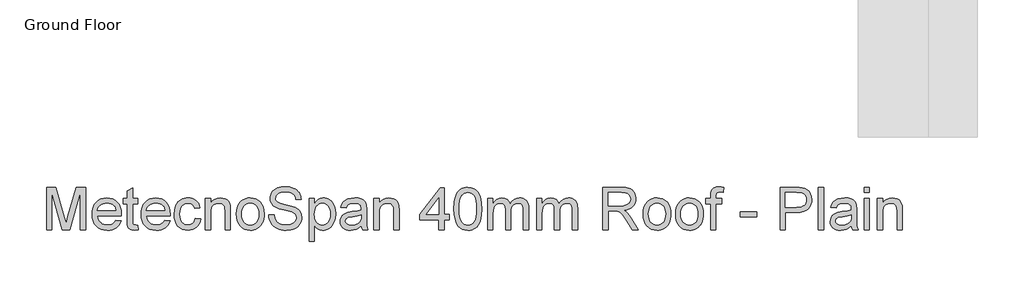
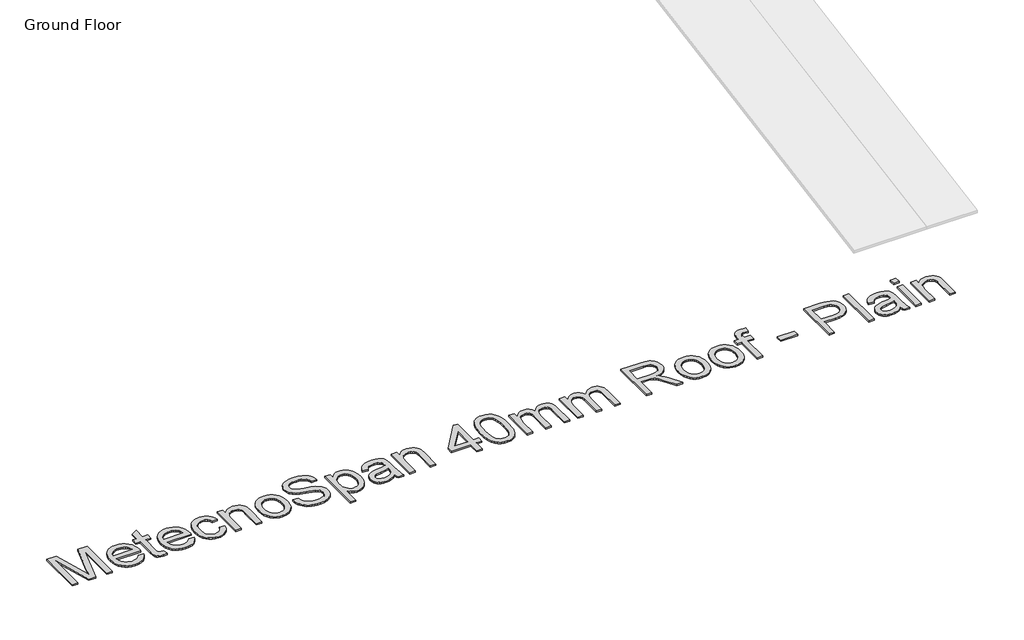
# One storey, part 3 of 14: 1 proxy.
"""IFC4 building model written with IfcOpenShell, lengths in millimetres."""

from ifc_helpers import new_model, si_unit, origin, origin_with_axes, place, context, project, spatial, polyline, outline, extrude, element, save

model = new_model("IFC4")

# Units and contexts
model_context = context("Model", 3, world=origin())
ifc_project = project(units=[si_unit("LENGTHUNIT", "METRE", prefix="MILLI")], contexts=[model_context])

# Site, building, storey
site = spatial("IfcSite", under=ifc_project)
building = spatial("IfcBuilding", under=site)
storey = spatial("IfcBuildingStorey", under=building, Name="Ground Floor", Elevation=0.0)

# Proxy
placement = place(None, origin())
element("IfcBuildingElementProxy", 1, Name="600mm Arial", ObjectType="600mm Arial", at=placement, inside=storey, context=model_context, shape_type="SweptSolid", body=[
    extrude(outline(polyline([(-20586.6111679, -5259.7789852), (-20586.6111679, -4657.0411243), (-20456.9695528, -4657.0411243), (-20333.655508, -5081.8712524), (-20308.7866852, -5170.6043896), (-20281.8577231, -5074.5136125), (-20160.6038175, -4657.0411243), (-20030.9622024, -4657.0411243), (-20030.9622024, -5259.7789852), (-20106.304435, -5259.7789852), (-20106.304435, -4732.3833569), (-20257.7246642, -5259.7789852), (-20359.8487061, -5259.7789852), (-20511.2689353, -4732.3833569), (-20511.2689353, -5259.7789852), (-20586.6111679, -5259.7789852)])), origin_with_axes(), (0.0, 0.0, 1.0), 20.0),
    extrude(outline(polyline([(-19598.6272817, -5127.9300782), (-19524.756577, -5137.3478572), (-19536.082744, -5166.9347667), (-19551.3728394, -5193.0084031), (-19570.6268633, -5215.5687665), (-19593.8448157, -5234.6158568), (-19620.7875733, -5249.7450038), (-19651.2160129, -5260.5515374), (-19685.1301343, -5267.0354576), (-19722.5299376, -5269.1967643), (-19769.2785422, -5265.4673606), (-19810.9319811, -5254.2791494), (-19847.4902544, -5235.6321308), (-19878.953362, -5209.5263047), (-19904.2544462, -5176.6882381), (-19922.3266492, -5137.8444979), (-19933.169971, -5092.9950842), (-19936.7844116, -5042.1399969), (-19933.1331828, -4989.5604627), (-19922.1794964, -4943.2165284), (-19903.9233524, -4903.1081939), (-19878.3647508, -4869.2354592), (-19846.9844166, -4842.3248912), (-19811.2630749, -4823.103057), (-19771.2007256, -4811.5699564), (-19726.7973688, -4807.7255896), (-19683.8241532, -4811.5607594), (-19644.962019, -4823.0662688), (-19610.210966, -4842.2421178), (-19579.5709943, -4869.0883064), (-19554.5596172, -4902.8874647), (-19536.6943478, -4942.9222228), (-19525.9751861, -4989.1925807), (-19522.4021323, -5041.6985385), (-19522.8435907, -5062.0056246), (-19861.442179, -5062.0056246), (-19857.0781789, -5092.0707807), (-19848.4007623, -5118.4019345), (-19835.4099293, -5140.999086), (-19818.10568, -5159.8622353), (-19797.4445074, -5174.733865), (-19774.3829049, -5185.3564576), (-19748.9208723, -5191.7300132), (-19721.0584097, -5193.8545317), (-19680.9592722, -5189.9181943), (-19647.187705, -5178.1091823), (-19619.7437082, -5157.6917316), (-19598.6272817, -5127.9300782)]), holes=[polyline([(-19861.442179, -4986.663392), (-19597.7443649, -4986.663392), (-19607.9346961, -4946.8585601), (-19616.6994847, -4931.2051812), (-19627.9106885, -4918.3844937), (-19648.4568979, -4902.9334499), (-19671.8357987, -4891.8969901), (-19698.0473909, -4885.2751141), (-19727.0916744, -4883.0678222), (-19753.5837766, -4884.8290572), (-19777.8777838, -4890.1127624), (-19799.9736962, -4898.9189376), (-19819.8715136, -4911.247583), (-19836.5687576, -4926.5284814), (-19849.0629499, -4944.1914157), (-19857.3540903, -4964.2363859), (-19861.442179, -4986.663392)])]), origin_with_axes(), (0.0, 0.0, 1.0), 20.0),
    extrude(outline(polyline([(-19286.9576554, -5196.9447405), (-19277.5398763, -5261.9862772), (-19333.8993979, -5269.1967643), (-19370.0621981, -5266.0697674), (-19397.0279483, -5256.6887765), (-19416.0842357, -5242.2310141), (-19428.5186471, -5223.8737025), (-19435.3612522, -5192.3462155), (-19437.6421206, -5138.3779268), (-19437.6421206, -4892.4856012), (-19494.148795, -4892.4856012), (-19494.148795, -4817.1433686), (-19437.6421206, -4817.1433686), (-19437.6421206, -4709.5746732), (-19362.299888, -4665.281681), (-19362.299888, -4817.1433686), (-19286.9576554, -4817.1433686), (-19286.9576554, -4892.4856012), (-19362.299888, -4892.4856012), (-19362.299888, -5136.1706349), (-19358.3267624, -5175.0189735), (-19345.4508926, -5188.7777602), (-19334.5799796, -5192.5853388), (-19319.7727293, -5193.8545317), (-19286.9576554, -5196.9447405)])), origin_with_axes(), (0.0, 0.0, 1.0), 20.0),
    extrude(outline(polyline([(-18901.71163, -5127.9300782), (-18827.8409254, -5137.3478572), (-18839.1670923, -5166.9347667), (-18854.4571877, -5193.0084031), (-18873.7112116, -5215.5687665), (-18896.9291641, -5234.6158568), (-18923.8719217, -5249.7450038), (-18954.3003612, -5260.5515374), (-18988.2144826, -5267.0354576), (-19025.614286, -5269.1967643), (-19072.3628905, -5265.4673606), (-19114.0163294, -5254.2791494), (-19150.5746027, -5235.6321308), (-19182.0377103, -5209.5263047), (-19207.3387945, -5176.6882381), (-19225.4109976, -5137.8444979), (-19236.2543194, -5092.9950842), (-19239.86876, -5042.1399969), (-19236.2175312, -4989.5604627), (-19225.2638448, -4943.2165284), (-19207.0077007, -4903.1081939), (-19181.4490991, -4869.2354592), (-19150.0687649, -4842.3248912), (-19114.3474232, -4823.103057), (-19074.2850739, -4811.5699564), (-19029.8817171, -4807.7255896), (-18986.9085016, -4811.5607594), (-18948.0463673, -4823.0662688), (-18913.2953143, -4842.2421178), (-18882.6553427, -4869.0883064), (-18857.6439655, -4902.8874647), (-18839.7786961, -4942.9222228), (-18829.0595345, -4989.1925807), (-18825.4864806, -5041.6985385), (-18825.927939, -5062.0056246), (-19164.5265274, -5062.0056246), (-19160.1625272, -5092.0707807), (-19151.4851106, -5118.4019345), (-19138.4942777, -5140.999086), (-19121.1900283, -5159.8622353), (-19100.5288558, -5174.733865), (-19077.4672532, -5185.3564576), (-19052.0052206, -5191.7300132), (-19024.142758, -5193.8545317), (-18984.0436205, -5189.9181943), (-18950.2720534, -5178.1091823), (-18922.8280565, -5157.6917316), (-18901.71163, -5127.9300782)]), holes=[polyline([(-19164.5265274, -4986.663392), (-18900.8287132, -4986.663392), (-18911.0190445, -4946.8585601), (-18919.783833, -4931.2051812), (-18930.9950368, -4918.3844937), (-18951.5412462, -4902.9334499), (-18974.920147, -4891.8969901), (-19001.1317392, -4885.2751141), (-19030.1760227, -4883.0678222), (-19056.6681249, -4884.8290572), (-19080.9621322, -4890.1127624), (-19103.0580445, -4898.9189376), (-19122.9558619, -4911.247583), (-19139.653106, -4926.5284814), (-19152.1472982, -4944.1914157), (-19160.4384387, -4964.2363859), (-19164.5265274, -4986.663392)])]), origin_with_axes(), (0.0, 0.0, 1.0), 20.0),
    extrude(outline(polyline([(-18467.6108757, -5099.6767409), (-18392.2686431, -5109.09452), (-18400.4632145, -5144.6457163), (-18413.274705, -5176.1042254), (-18430.7031145, -5203.4700473), (-18452.7484431, -5226.7431821), (-18478.4817887, -5245.3166243), (-18506.9742492, -5258.5833687), (-18538.2258247, -5266.5434154), (-18572.2365151, -5269.1967643), (-18614.4923608, -5265.4949517), (-18652.3796078, -5254.389514), (-18685.8982561, -5235.8804511), (-18715.0483056, -5209.9677631), (-18738.6433371, -5177.1388935), (-18755.496931, -5137.8812861), (-18765.6090874, -5092.1949409), (-18768.9798061, -5040.0798577), (-18763.2224529, -4973.0333641), (-18756.0257614, -4942.862442), (-18745.9503932, -4914.926403), (-18732.9273706, -4889.7862671), (-18716.8877156, -4868.0030545), (-18697.8314283, -4849.576765), (-18675.7585086, -4834.5073988), (-18651.6668364, -4822.7903573), (-18626.5542917, -4814.4210419), (-18600.4208745, -4809.3994526), (-18573.2665847, -4807.7255896), (-18539.8399069, -4810.024852), (-18509.6046054, -4816.9226394), (-18482.5606803, -4828.4189518), (-18458.7081314, -4844.5137891), (-18438.4516291, -4864.8392693), (-18422.1958434, -4889.0275105), (-18409.9407744, -4917.0785126), (-18401.6864222, -4948.9922757), (-18477.0286548, -4958.4100548), (-18490.6954709, -4925.5397985), (-18511.9774443, -4901.9769567), (-18539.6973526, -4887.7951058), (-18572.6779735, -4883.0678222), (-18598.2779619, -4885.3946758), (-18621.3671556, -4892.3752367), (-18641.9455547, -4904.0095047), (-18660.0131592, -4920.2974801), (-18674.7238405, -4941.6162417), (-18685.2314699, -4968.3428687), (-18691.5360476, -5000.4773609), (-18693.6375735, -5038.0197185), (-18691.5820329, -5076.1276947), (-18685.4154109, -5108.6346675), (-18675.1377077, -5135.5406369), (-18660.7489232, -5156.845603), (-18643.0400036, -5173.0370093), (-18622.8018954, -5184.6022995), (-18600.0345984, -5191.5414737), (-18574.7381127, -5193.8545317), (-18535.7242271, -5188.0787844), (-18518.8522391, -5180.8591002), (-18503.7368876, -5170.7515424), (-18490.801237, -5157.6457463), (-18480.4683514, -5141.4313474), (-18472.738231, -5122.1083456), (-18467.6108757, -5099.6767409)])), origin_with_axes(), (0.0, 0.0, 1.0), 20.0),
    extrude(outline(polyline([(-18326.3441895, -5259.7789852), (-18326.3441895, -4817.1433686), (-18251.0019569, -4817.1433686), (-18251.0019569, -4878.9475438), (-18224.827153, -4847.7879388), (-18193.3916365, -4825.5310781), (-18156.6954075, -4812.1769617), (-18114.7384659, -4807.7255896), (-18077.6007785, -4811.312439), (-18043.5900881, -4822.0729874), (-18015.2263862, -4838.6644654), (-17995.0296647, -4859.7441037), (-17981.3260604, -4885.25672), (-17972.4417102, -4915.1471322), (-17968.4685846, -4987.9877672), (-17968.4685846, -5259.7789852), (-18043.8108173, -5259.7789852), (-18043.8108173, -4998.1413103), (-18045.981321, -4959.182607), (-18052.4928323, -4931.4810927), (-18064.5041795, -4911.6338591), (-18083.1741907, -4896.2379976), (-18107.1049145, -4886.360366), (-18134.8983993, -4883.0678222), (-18157.7760608, -4884.9164292), (-18179.0258446, -4890.4622503), (-18198.6477505, -4899.7052854), (-18216.6417786, -4912.6455346), (-18231.6743566, -4930.7545258), (-18242.4119123, -4955.503787), (-18248.8544458, -4986.8933183), (-18251.0019569, -5024.9231195), (-18251.0019569, -5259.7789852), (-18326.3441895, -5259.7789852)])), origin_with_axes(), (0.0, 0.0, 1.0), 20.0),
    extrude(outline(polyline([(-17883.7085729, -5038.4611769), (-17879.6342799, -4981.135965), (-17867.4114006, -4931.7386101), (-17847.0399351, -4890.2691122), (-17818.5198834, -4856.7274713), (-17789.8066937, -4835.289148), (-17758.1136598, -4819.97606), (-17723.4407818, -4810.7882072), (-17685.7880595, -4807.7255896), (-17644.2219926, -4811.4549933), (-17606.6382483, -4822.6432045), (-17573.0368265, -4841.2902231), (-17543.4177274, -4867.3960492), (-17519.2432818, -4900.0777659), (-17501.9758207, -4938.4524565), (-17491.615344, -4982.520121), (-17488.1618517, -5032.2807594), (-17489.688562, -5072.6098231), (-17494.2686929, -5108.3955442), (-17501.9022443, -5139.6379227), (-17512.5892162, -5166.3369585), (-17526.1962515, -5189.398561), (-17542.5899929, -5209.7286398), (-17561.7704404, -5227.3271947), (-17583.7375941, -5242.1942259), (-17607.6361282, -5254.0078364), (-17632.6107171, -5262.4461297), (-17658.6613609, -5267.5091057), (-17685.7880595, -5269.1967643), (-17727.9611318, -5265.4811562), (-17765.894364, -5254.3343317), (-17799.5877562, -5235.7562909), (-17829.0413085, -5209.7470339), (-17852.9582367, -5176.7480189), (-17870.0417568, -5137.2007044), (-17880.2918689, -5091.1050904), (-17883.7085729, -5038.4611769)]), holes=[polyline([(-17808.3663403, -5038.3140241), (-17806.1866395, -5074.8585018), (-17799.6475371, -5106.5009519), (-17788.7490329, -5133.2413745), (-17773.4911272, -5155.0797694), (-17754.9314805, -5172.0437279), (-17734.1277537, -5184.1608411), (-17711.0799467, -5191.4311091), (-17685.7880595, -5193.8545317), (-17660.6249311, -5191.4173135), (-17637.6690946, -5184.1056588), (-17616.92055, -5171.9195677), (-17598.3792975, -5154.8590402), (-17583.1213917, -5132.8045146), (-17572.2228876, -5105.6364293), (-17565.6837852, -5073.3547842), (-17563.5040843, -5035.9595794), (-17565.6975807, -5000.57393), (-17572.2780699, -4969.7592143), (-17583.2455519, -4943.5154325), (-17598.6000267, -4921.8425845), (-17617.2102571, -4904.878626), (-17637.9450061, -4892.7615127), (-17660.8042735, -4885.4912448), (-17685.7880595, -4883.0678222), (-17711.0799467, -4885.4820478), (-17734.1277537, -4892.7247245), (-17754.9314805, -4904.7958525), (-17773.4911272, -4921.6954317), (-17788.7490329, -4943.4694473), (-17799.6475371, -4970.1638845), (-17806.1866395, -5001.7787435), (-17808.3663403, -5038.3140241)])]), origin_with_axes(), (0.0, 0.0, 1.0), 20.0),
    extrude(outline(polyline([(-17422.2373982, -5052.5878455), (-17346.8951656, -5052.5878455), (-17338.2499387, -5094.3976343), (-17322.6149539, -5128.0036546), (-17298.2243776, -5154.6750992), (-17263.3123763, -5175.6811611), (-17220.6380648, -5189.3111891), (-17172.9605583, -5193.8545317), (-17130.9852226, -5190.414835), (-17094.2338113, -5180.0957451), (-17064.4537638, -5163.7617845), (-17043.3925196, -5142.277476), (-17030.8661376, -5117.6109882), (-17026.690677, -5091.7304898), (-17029.8176739, -5066.5121791), (-17039.1986648, -5044.7151709), (-17058.2549522, -5026.118736), (-17090.4078385, -5010.5021453), (-17200.1102495, -4981.7337733), (-17272.1231501, -4962.69588), (-17318.20037, -4944.5776918), (-17355.7059394, -4919.2306223), (-17382.2854135, -4888.5124757), (-17398.1227334, -4853.0854396), (-17403.40184, -4813.6117015), (-17401.7693637, -4791.1754983), (-17396.8719346, -4769.4842562), (-17388.7095529, -4748.5379751), (-17377.2822184, -4728.336655), (-17362.7186899, -4709.7034319), (-17345.1477261, -4693.4614419), (-17324.569327, -4679.6106847), (-17300.9834926, -4668.1511606), (-17247.9716971, -4652.7552991), (-17189.2945189, -4647.6233453), (-17125.7245101, -4652.9944224), (-17070.1007524, -4669.1076538), (-17045.7653584, -4681.1098039), (-17024.4098086, -4695.6319456), (-17006.034103, -4712.6740791), (-16990.6382415, -4732.2362041), (-16978.3417858, -4753.7481038), (-16969.2642975, -4776.639561), (-16963.4057768, -4800.9105756), (-16960.7662234, -4826.5611477), (-17036.1084561, -4826.5611477), (-17041.1484394, -4802.5200593), (-17049.9408191, -4781.6059679), (-17062.4855951, -4763.8188734), (-17078.7827675, -4749.1587759), (-17099.1358389, -4737.6992518), (-17123.8483119, -4729.5138774), (-17152.9201866, -4724.6026527), (-17186.3514629, -4722.9655779), (-17220.849597, -4724.5842587), (-17250.3261419, -4729.440301), (-17274.7810975, -4737.5337049), (-17294.2144639, -4748.8644703), (-17309.0217142, -4762.4853012), (-17319.5983215, -4777.4489014), (-17325.944286, -4793.7552708), (-17328.0596074, -4811.4044095), (-17326.5604883, -4826.5887389), (-17322.0631309, -4840.3567225), (-17314.5675353, -4852.7083605), (-17304.0737013, -4863.6436528), (-17287.5557998, -4873.999531), (-17261.5465427, -4884.4657738), (-17181.0539622, -4905.7293531), (-17097.9862077, -4925.9260746), (-17047.7335271, -4943.5476222), (-17004.7833042, -4970.8812544), (-16988.1780306, -4986.9485006), (-16974.8193157, -5004.6160334), (-16964.5508095, -5023.7918824), (-16957.2161622, -5044.3840771), (-16951.3484444, -5089.8175035), (-16953.036103, -5113.3849438), (-16958.099079, -5136.2626054), (-16966.5373722, -5158.4504882), (-16978.3509828, -5179.9485923), (-16993.3329771, -5199.9245846), (-17011.2764214, -5217.5461322), (-17032.1813158, -5232.813235), (-17056.0476602, -5245.725893), (-17082.1810774, -5255.9943992), (-17109.8871902, -5263.3290465), (-17170.0175023, -5269.1967643), (-17208.5577398, -5267.6148717), (-17243.8330246, -5262.869194), (-17275.8433567, -5254.9597311), (-17304.5887361, -5243.886483), (-17330.2439068, -5229.6310557), (-17352.9836126, -5212.1750551), (-17372.8078536, -5191.518481), (-17389.7166298, -5167.6613336), (-17403.3374607, -5141.3761651), (-17413.2978657, -5113.4355276), (-17419.5978449, -5083.839421), (-17422.2373982, -5052.5878455)])), origin_with_axes(), (0.0, 0.0, 1.0), 20.0),
    extrude(outline(polyline([(-16847.7528745, -5429.2990086), (-16847.7528745, -4817.1433686), (-16772.4106419, -4817.1433686), (-16772.4106419, -4891.0140733), (-16747.8361246, -4854.5753616), (-16720.3185514, -4828.5477105), (-16688.2392414, -4812.9311198), (-16649.9795139, -4807.7255896), (-16623.7035424, -4809.5466054), (-16599.0278576, -4815.0096531), (-16575.9524594, -4824.1147324), (-16554.477348, -4836.8618436), (-16535.0715727, -4852.9198927), (-16518.2041833, -4871.9577859), (-16503.8751795, -4893.9755233), (-16492.0845616, -4918.9731049), (-16476.302424, -4974.486498), (-16471.0417115, -5035.0766626), (-16476.9830057, -5099.511194), (-16484.4096235, -5129.1762784), (-16494.8068884, -5157.1399086), (-16508.0322461, -5182.670919), (-16523.9431424, -5205.0381444), (-16542.5395772, -5224.2415845), (-16563.8215507, -5240.2812395), (-16586.7451975, -5252.9317816), (-16610.2666525, -5261.9678831), (-16634.3859159, -5267.389544), (-16659.1029874, -5269.1967643), (-16693.7390773, -5264.3591161), (-16724.6595589, -5249.8461714), (-16751.1286685, -5227.9387986), (-16772.4106419, -5200.917866), (-16772.4106419, -5429.2990086), (-16847.7528745, -5429.2990086)]), holes=[polyline([(-16772.4106419, -5041.9928441), (-16770.3734954, -5078.302797), (-16764.2620557, -5109.5359784), (-16754.076323, -5135.6923883), (-16739.8162971, -5156.7720266), (-16722.6500035, -5172.9956226), (-16703.7454675, -5184.5839054), (-16683.1026891, -5191.5368751), (-16660.7216682, -5193.8545317), (-16638.0187506, -5191.4541017), (-16616.9988931, -5184.2528116), (-16597.6620957, -5172.2506615), (-16580.0083584, -5155.4476514), (-16565.2976772, -5133.6046579), (-16554.7900477, -5106.4825578), (-16548.48547, -5074.0813511), (-16546.3839441, -5036.4010378), (-16548.4348862, -5000.4037845), (-16554.5877126, -4969.2257854), (-16564.8424232, -4942.8670405), (-16579.1990181, -4921.3275497), (-16596.4066984, -4904.5889189), (-16615.2146654, -4892.632754), (-16635.6229191, -4885.4590551), (-16657.6314594, -4883.0678222), (-16679.5710219, -4885.6108065), (-16700.2138004, -4893.2397593), (-16719.5597948, -4905.9546808), (-16737.6090052, -4923.7555708), (-16752.8347213, -4946.4033062), (-16763.7102327, -4973.6587635), (-16770.2355396, -5005.5219428), (-16772.4106419, -5041.9928441)])]), origin_with_axes(), (0.0, 0.0, 1.0), 20.0),
    extrude(outline(polyline([(-16103.7483275, -5203.2723108), (-16139.7455807, -5234.1376102), (-16176.8096917, -5254.3343317), (-16215.7867891, -5265.4811562), (-16257.5230015, -5269.1967643), (-16291.0692409, -5266.9618812), (-16320.4860049, -5260.2572318), (-16345.7732936, -5249.0828162), (-16366.9311068, -5233.4386344), (-16383.6375479, -5214.3179677), (-16395.5707202, -5192.7140975), (-16402.7306235, -5168.6270239), (-16405.1172579, -5142.0567468), (-16401.5120144, -5110.8235654), (-16390.6962837, -5082.4598636), (-16374.0128352, -5058.1796519), (-16352.8044382, -5039.1969409), (-16327.880433, -5024.8495431), (-16300.0501601, -5014.4752708), (-16234.8614706, -5003.1445054), (-16157.8269808, -4991.2251288), (-16104.1897859, -4977.2456129), (-16103.7483275, -4960.470194), (-16108.9354636, -4926.8457796), (-16115.4193838, -4914.3929741), (-16124.496872, -4904.8464363), (-16140.1870391, -4895.3182926), (-16159.2985088, -4888.5124757), (-16207.7853557, -4883.0678222), (-16252.6669591, -4886.6914598), (-16284.0105051, -4897.5623728), (-16305.384449, -4917.6671238), (-16320.3572462, -4948.9922757), (-16395.6994789, -4939.5744966), (-16382.6212739, -4898.3717132), (-16363.1051341, -4865.9980976), (-16335.3300434, -4841.2396393), (-16297.4749861, -4822.8823278), (-16251.1770371, -4811.5147741), (-16198.073271, -4807.7255896), (-16147.1400088, -4811.0733157), (-16106.7649598, -4821.1164942), (-16076.3227247, -4836.2180501), (-16055.1879041, -4854.7409085), (-16041.1716001, -4877.6415627), (-16032.0849148, -4905.8765059), (-16028.4060949, -4971.8009594), (-16028.4060949, -5065.5372918), (-16024.5801221, -5196.4297057), (-16018.9147394, -5228.7849271), (-16009.5705367, -5259.7789852), (-16084.9127693, -5259.7789852), (-16096.9792988, -5233.5857872), (-16103.7483275, -5203.2723108)]), holes=[polyline([(-16103.7483275, -5052.5878455), (-16154.36889, -5065.1326216), (-16225.2965387, -5075.6908348), (-16290.1173462, -5087.9045171), (-16306.9847357, -5096.2554384), (-16319.4743295, -5107.7701448), (-16327.1998514, -5121.5657196), (-16329.7750253, -5136.759246), (-16324.1648249, -5159.1632596), (-16307.3342236, -5177.5205711), (-16279.6511035, -5189.7710416), (-16241.4833465, -5193.8545317), (-16201.016327, -5189.3479773), (-16165.2581971, -5175.8283139), (-16136.2690959, -5155.9075039), (-16116.1091625, -5132.1975093), (-16107.16963, -5107.7701448), (-16104.1897859, -5073.9250013), (-16103.7483275, -5052.5878455)])]), origin_with_axes(), (0.0, 0.0, 1.0), 20.0),
    extrude(outline(polyline([(-15924.810525, -5259.7789852), (-15924.810525, -4817.1433686), (-15849.4682924, -4817.1433686), (-15849.4682924, -4878.9475438), (-15823.2934885, -4847.7879388), (-15791.857972, -4825.5310781), (-15755.161743, -4812.1769617), (-15713.2048014, -4807.7255896), (-15676.067114, -4811.312439), (-15642.0564235, -4822.0729874), (-15613.6927217, -4838.6644654), (-15593.4960002, -4859.7441037), (-15579.7923959, -4885.25672), (-15570.9080457, -4915.1471322), (-15566.9349201, -4987.9877672), (-15566.9349201, -5259.7789852), (-15642.2771527, -5259.7789852), (-15642.2771527, -4998.1413103), (-15644.4476565, -4959.182607), (-15650.9591678, -4931.4810927), (-15662.970515, -4911.6338591), (-15681.6405262, -4896.2379976), (-15705.57125, -4886.360366), (-15733.3647347, -4883.0678222), (-15756.2423963, -4884.9164292), (-15777.4921801, -4890.4622503), (-15797.114086, -4899.7052854), (-15815.1081141, -4912.6455346), (-15830.1406921, -4930.7545258), (-15840.8782478, -4955.503787), (-15847.3207813, -4986.8933183), (-15849.4682924, -5024.9231195), (-15849.4682924, -5259.7789852), (-15924.810525, -5259.7789852)])), origin_with_axes(), (0.0, 0.0, 1.0), 20.0),
    extrude(outline(polyline([(-15001.8681755, -5259.7789852), (-15001.8681755, -5118.5122991), (-15274.9837688, -5118.5122991), (-15274.9837688, -5043.1700665), (-14983.0326174, -4666.4589034), (-14926.5259429, -4666.4589034), (-14926.5259429, -5043.1700665), (-14851.1837103, -5043.1700665), (-14851.1837103, -5118.5122991), (-14926.5259429, -5118.5122991), (-14926.5259429, -5259.7789852), (-15001.8681755, -5259.7789852)]), holes=[polyline([(-15001.8681755, -5043.1700665), (-15001.8681755, -4810.3743399), (-15182.277506, -5043.1700665), (-15001.8681755, -5043.1700665)])]), origin_with_axes(), (0.0, 0.0, 1.0), 20.0),
    extrude(outline(polyline([(-14785.2592568, -4963.2660971), (-14779.7226327, -4866.7890439), (-14772.8018527, -4825.8759675), (-14763.1127607, -4789.8465246), (-14750.6967433, -4758.4064096), (-14735.5951874, -4731.2613169), (-14717.808093, -4708.4112464), (-14697.3354599, -4689.8561983), (-14674.1083105, -4675.4996034), (-14648.0576667, -4665.2448928), (-14619.1835286, -4659.0920665), (-14587.4858962, -4657.0411243), (-14541.0591884, -4661.8971667), (-14499.4885229, -4676.4652937), (-14464.7236744, -4700.1752883), (-14438.7144173, -4732.4569333), (-14419.0695188, -4773.0343174), (-14403.3977458, -4821.631529), (-14393.1338381, -4883.3437337), (-14389.7125356, -4963.2660971), (-14395.1939773, -5059.1913274), (-14402.0457794, -5099.966448), (-14411.6383025, -5135.9499057), (-14423.9577508, -5167.4038162), (-14438.9903288, -5194.5902957), (-14456.7360366, -5217.509344), (-14477.194874, -5236.1609611), (-14500.4496146, -5250.614125), (-14526.5830319, -5260.9378135), (-14555.5951257, -5267.1320266), (-14587.4858962, -5269.1967643), (-14628.9829852, -5265.6099149), (-14665.7711847, -5254.8493665), (-14697.8504947, -5236.9151192), (-14725.2209152, -5211.8071731), (-14751.4876896, -5166.4197319), (-14770.2496714, -5109.8670722), (-14781.5068604, -5042.1491939), (-14785.2592568, -4963.2660971)]), holes=[polyline([(-14709.9170242, -4963.1189443), (-14707.7097322, -5028.615735), (-14701.0878563, -5081.6321291), (-14690.0513964, -5122.1681264), (-14674.6003526, -5150.2237271), (-14655.9119473, -5169.3122041), (-14635.1634027, -5182.9468305), (-14612.354719, -5191.1276064), (-14587.4858962, -5193.8545317), (-14562.6170733, -5191.1184094), (-14539.8083896, -5182.9100423), (-14519.0598451, -5169.2294306), (-14500.3714397, -5150.0765743), (-14484.9203959, -5121.9749884), (-14473.8839361, -5081.4481881), (-14467.2620601, -5028.4961734), (-14465.0547682, -4963.1189443), (-14467.1884837, -4899.3557975), (-14473.5896305, -4847.272904), (-14484.2582083, -4806.8702639), (-14499.1942173, -4778.1478771), (-14517.569923, -4758.1258996), (-14538.5575908, -4743.824487), (-14562.1572208, -4735.2436395), (-14588.368813, -4732.3833569), (-14613.1088771, -4734.9033486), (-14635.5312847, -4742.4633236), (-14655.6360358, -4755.063282), (-14673.4231302, -4772.7032236), (-14689.3892088, -4803.9731932), (-14700.7935507, -4846.1324699), (-14707.6361558, -4899.1810536), (-14709.9170242, -4963.1189443)])]), origin_with_axes(), (0.0, 0.0, 1.0), 20.0),
    extrude(outline(polyline([(-14304.9525239, -5259.7789852), (-14304.9525239, -4817.1433686), (-14229.6102913, -4817.1433686), (-14229.6102913, -4889.9840037), (-14206.9487604, -4856.5251362), (-14177.8125063, -4830.3135441), (-14143.1948106, -4813.3725782), (-14104.0889545, -4807.7255896), (-14062.1871953, -4813.4829428), (-14044.3541155, -4820.6796343), (-14028.5995691, -4830.7550025), (-14003.510017, -4858.4013344), (-13987.10248, -4895.2815044), (-13959.6400891, -4856.9757917), (-13928.3149372, -4829.6145683), (-13893.1270244, -4813.1978342), (-13854.0763506, -4807.7255896), (-13823.9146255, -4810.0018594), (-13797.4409174, -4816.8306689), (-13774.6552263, -4828.2120182), (-13755.5575523, -4844.1459071), (-13740.4605949, -4864.8162767), (-13729.6770539, -4890.407068), (-13723.2069293, -4920.918281), (-13721.0502211, -4956.3499156), (-13721.0502211, -5259.7789852), (-13796.3924537, -5259.7789852), (-13796.3924537, -4988.7235312), (-13798.1398932, -4951.1443854), (-13803.3822116, -4925.81571), (-13813.2046609, -4908.4700739), (-13828.6924929, -4894.840046), (-13848.613303, -4886.0108781), (-13871.7346863, -4883.0678222), (-13893.0856376, -4884.9532174), (-13912.5511937, -4890.6094031), (-13930.1313546, -4900.0363792), (-13945.8261202, -4913.2341458), (-13958.7341797, -4930.5889789), (-13967.9542222, -4952.4871547), (-13973.4862477, -4978.9286731), (-13975.3302562, -5009.9135341), (-13975.3302562, -5259.7789852), (-14050.6724888, -5259.7789852), (-14050.6724888, -4980.3358217), (-14055.0318904, -4937.7350867), (-14060.4811425, -4921.01485), (-14068.1100954, -4907.3480339), (-14078.2222517, -4896.7254412), (-14091.1211142, -4889.1378751), (-14106.8066827, -4884.5853354), (-14125.2789574, -4883.0678222), (-14154.3048468, -4887.1145241), (-14181.0498679, -4899.25463), (-14203.1227876, -4919.1938341), (-14218.132373, -4946.6378309), (-14226.7408117, -4984.7136174), (-14229.6102913, -5036.5481906), (-14229.6102913, -5259.7789852), (-14304.9525239, -5259.7789852)])), origin_with_axes(), (0.0, 0.0, 1.0), 20.0),
    extrude(outline(polyline([(-13608.0368722, -5259.7789852), (-13608.0368722, -4817.1433686), (-13532.6946396, -4817.1433686), (-13532.6946396, -4889.9840037), (-13510.0331087, -4856.5251362), (-13480.8968547, -4830.3135441), (-13446.2791589, -4813.3725782), (-13407.1733028, -4807.7255896), (-13365.2715436, -4813.4829428), (-13347.4384639, -4820.6796343), (-13331.6839174, -4830.7550025), (-13306.5943654, -4858.4013344), (-13290.1868284, -4895.2815044), (-13262.7244374, -4856.9757917), (-13231.3992855, -4829.6145683), (-13196.2113727, -4813.1978342), (-13157.1606989, -4807.7255896), (-13126.9989738, -4810.0018594), (-13100.5252658, -4816.8306689), (-13077.7395747, -4828.2120182), (-13058.6419006, -4844.1459071), (-13043.5449432, -4864.8162767), (-13032.7614022, -4890.407068), (-13026.2912777, -4920.918281), (-13024.1345695, -4956.3499156), (-13024.1345695, -5259.7789852), (-13099.4768021, -5259.7789852), (-13099.4768021, -4988.7235312), (-13101.2242416, -4951.1443854), (-13106.46656, -4925.81571), (-13116.2890093, -4908.4700739), (-13131.7768413, -4894.840046), (-13151.6976513, -4886.0108781), (-13174.8190347, -4883.0678222), (-13196.169986, -4884.9532174), (-13215.6355421, -4890.6094031), (-13233.2157029, -4900.0363792), (-13248.9104685, -4913.2341458), (-13261.818528, -4930.5889789), (-13271.0385705, -4952.4871547), (-13276.570596, -4978.9286731), (-13278.4146045, -5009.9135341), (-13278.4146045, -5259.7789852), (-13353.7568371, -5259.7789852), (-13353.7568371, -4980.3358217), (-13358.1162388, -4937.7350867), (-13363.5654908, -4921.01485), (-13371.1944437, -4907.3480339), (-13381.3066001, -4896.7254412), (-13394.2054625, -4889.1378751), (-13409.8910311, -4884.5853354), (-13428.3633058, -4883.0678222), (-13457.3891952, -4887.1145241), (-13484.1342162, -4899.25463), (-13506.2071359, -4919.1938341), (-13521.2167213, -4946.6378309), (-13529.82516, -4984.7136174), (-13532.6946396, -5036.5481906), (-13532.6946396, -5259.7789852), (-13608.0368722, -5259.7789852)])), origin_with_axes(), (0.0, 0.0, 1.0), 20.0),
    extrude(outline(polyline([(-12666.2589646, -5259.7789852), (-12666.2589646, -4657.0411243), (-12406.534276, -4657.0411243), (-12336.7286674, -4661.1062204), (-12285.9425579, -4673.3015085), (-12266.3436446, -4682.9951991), (-12248.8232646, -4695.8158866), (-12233.3814179, -4711.7635711), (-12220.0181044, -4730.8382526), (-12209.2345634, -4752.0144599), (-12201.5320341, -4774.2667221), (-12196.9105166, -4797.5950391), (-12195.3700107, -4821.999411), (-12197.9221921, -4852.9566809), (-12205.5787361, -4881.375565), (-12218.3396428, -4907.2560634), (-12236.2049122, -4930.5981759), (-12259.4044705, -4950.6569417), (-12288.168244, -4966.6873997), (-12322.4962327, -4978.6895498), (-12362.3884365, -4986.663392), (-12337.5564019, -5002.886988), (-12319.5669723, -5018.8898548), (-12288.7016729, -5055.4941133), (-12258.4985611, -5096.4393794), (-12157.9932, -5259.7789852), (-12245.5491149, -5259.7789852), (-12323.9815562, -5134.8462597), (-12380.6353835, -5052.1463872), (-12401.6966277, -5028.0317224), (-12420.4402154, -5013.0773193), (-12456.2719217, -4998.7299215), (-12499.9763027, -4996.0811711), (-12590.9167319, -4996.0811711), (-12590.9167319, -5259.7789852), (-12666.2589646, -5259.7789852)]), holes=[polyline([(-12590.9167319, -4920.7389385), (-12422.2796254, -4920.7389385), (-12373.8479607, -4918.071794), (-12336.2688149, -4910.0703606), (-12307.9786895, -4896.2012094), (-12287.4140859, -4875.9309115), (-12274.887704, -4851.4115765), (-12270.7122433, -4824.7953141), (-12272.7034046, -4805.5274946), (-12278.6768885, -4788.0439028), (-12288.632695, -4772.3445387), (-12302.5708241, -4758.4294022), (-12320.8131726, -4747.0342574), (-12343.6816371, -4738.8948683), (-12371.1762177, -4734.0112348), (-12403.2969144, -4732.3833569), (-12590.9167319, -4732.3833569), (-12590.9167319, -4920.7389385)])]), origin_with_axes(), (0.0, 0.0, 1.0), 20.0),
    extrude(outline(polyline([(-12091.7744409, -5038.4611769), (-12087.7001478, -4981.135965), (-12075.4772685, -4931.7386101), (-12055.105803, -4890.2691122), (-12026.5857513, -4856.7274713), (-11997.8725616, -4835.289148), (-11966.1795277, -4819.97606), (-11931.5066497, -4810.7882072), (-11893.8539275, -4807.7255896), (-11852.2878606, -4811.4549933), (-11814.7041162, -4822.6432045), (-11781.1026945, -4841.2902231), (-11751.4835953, -4867.3960492), (-11727.3091497, -4900.0777659), (-11710.0416886, -4938.4524565), (-11699.6812119, -4982.520121), (-11696.2277197, -5032.2807594), (-11697.75443, -5072.6098231), (-11702.3345608, -5108.3955442), (-11709.9681122, -5139.6379227), (-11720.6550842, -5166.3369585), (-11734.2621194, -5189.398561), (-11750.6558609, -5209.7286398), (-11769.8363084, -5227.3271947), (-11791.803462, -5242.1942259), (-11815.7019961, -5254.0078364), (-11840.6765851, -5262.4461297), (-11866.7272289, -5267.5091057), (-11893.8539275, -5269.1967643), (-11936.0269997, -5265.4811562), (-11973.9602319, -5254.3343317), (-12007.6536242, -5235.7562909), (-12037.1071764, -5209.7470339), (-12061.0241046, -5176.7480189), (-12078.1076248, -5137.2007044), (-12088.3577369, -5091.1050904), (-12091.7744409, -5038.4611769)]), holes=[polyline([(-12016.4322083, -5038.3140241), (-12014.2525075, -5074.8585018), (-12007.713405, -5106.5009519), (-11996.8149009, -5133.2413745), (-11981.5569951, -5155.0797694), (-11962.9973485, -5172.0437279), (-11942.1936216, -5184.1608411), (-11919.1458146, -5191.4311091), (-11893.8539275, -5193.8545317), (-11868.690799, -5191.4173135), (-11845.7349625, -5184.1056588), (-11824.986418, -5171.9195677), (-11806.4451654, -5154.8590402), (-11791.1872597, -5132.8045146), (-11780.2887556, -5105.6364293), (-11773.7496531, -5073.3547842), (-11771.5699523, -5035.9595794), (-11773.7634487, -5000.57393), (-11780.3439379, -4969.7592143), (-11791.3114199, -4943.5154325), (-11806.6658946, -4921.8425845), (-11825.2761251, -4904.878626), (-11846.010874, -4892.7615127), (-11868.8701415, -4885.4912448), (-11893.8539275, -4883.0678222), (-11919.1458146, -4885.4820478), (-11942.1936216, -4892.7247245), (-11962.9973485, -4904.7958525), (-11981.5569951, -4921.6954317), (-11996.8149009, -4943.4694473), (-12007.713405, -4970.1638845), (-12014.2525075, -5001.7787435), (-12016.4322083, -5038.3140241)])]), origin_with_axes(), (0.0, 0.0, 1.0), 20.0),
    extrude(outline(polyline([(-11630.3032661, -5038.4611769), (-11626.228973, -4981.135965), (-11614.0060937, -4931.7386101), (-11593.6346283, -4890.2691122), (-11565.1145766, -4856.7274713), (-11536.4013869, -4835.289148), (-11504.708353, -4819.97606), (-11470.0354749, -4810.7882072), (-11432.3827527, -4807.7255896), (-11390.8166858, -4811.4549933), (-11353.2329415, -4822.6432045), (-11319.6315197, -4841.2902231), (-11290.0124206, -4867.3960492), (-11265.837975, -4900.0777659), (-11248.5705138, -4938.4524565), (-11238.2100372, -4982.520121), (-11234.7565449, -5032.2807594), (-11236.2832552, -5072.6098231), (-11240.863386, -5108.3955442), (-11248.4969374, -5139.6379227), (-11259.1839094, -5166.3369585), (-11272.7909447, -5189.398561), (-11289.1846861, -5209.7286398), (-11308.3651336, -5227.3271947), (-11330.3322873, -5242.1942259), (-11354.2308214, -5254.0078364), (-11379.2054103, -5262.4461297), (-11405.2560541, -5267.5091057), (-11432.3827527, -5269.1967643), (-11474.555825, -5265.4811562), (-11512.4890572, -5254.3343317), (-11546.1824494, -5235.7562909), (-11575.6360017, -5209.7470339), (-11599.5529299, -5176.7480189), (-11616.63645, -5137.2007044), (-11626.8865621, -5091.1050904), (-11630.3032661, -5038.4611769)]), holes=[polyline([(-11554.9610335, -5038.3140241), (-11552.7813327, -5074.8585018), (-11546.2422302, -5106.5009519), (-11535.3437261, -5133.2413745), (-11520.0858204, -5155.0797694), (-11501.5261737, -5172.0437279), (-11480.7224469, -5184.1608411), (-11457.6746399, -5191.4311091), (-11432.3827527, -5193.8545317), (-11407.2196243, -5191.4173135), (-11384.2637878, -5184.1056588), (-11363.5152432, -5171.9195677), (-11344.9739907, -5154.8590402), (-11329.7160849, -5132.8045146), (-11318.8175808, -5105.6364293), (-11312.2784784, -5073.3547842), (-11310.0987775, -5035.9595794), (-11312.2922739, -5000.57393), (-11318.8727631, -4969.7592143), (-11329.8402451, -4943.5154325), (-11345.1947199, -4921.8425845), (-11363.8049503, -4904.878626), (-11384.5396993, -4892.7615127), (-11407.3989667, -4885.4912448), (-11432.3827527, -4883.0678222), (-11457.6746399, -4885.4820478), (-11480.7224469, -4892.7247245), (-11501.5261737, -4904.7958525), (-11520.0858204, -4921.6954317), (-11535.3437261, -4943.4694473), (-11546.2422302, -4970.1638845), (-11552.7813327, -5001.7787435), (-11554.9610335, -5038.3140241)])]), origin_with_axes(), (0.0, 0.0, 1.0), 20.0),
    extrude(outline(polyline([(-11131.1609751, -5259.7789852), (-11131.1609751, -4892.4856012), (-11197.0854286, -4892.4856012), (-11197.0854286, -4817.1433686), (-11131.1609751, -4817.1433686), (-11131.1609751, -4772.5560708), (-11129.1744123, -4735.6575067), (-11123.214724, -4709.721826), (-11108.0579858, -4684.6690622), (-11084.6606909, -4664.8402226), (-11051.9191933, -4651.9275646), (-11008.7298471, -4647.6233453), (-10976.0251377, -4649.6834844), (-10940.0094904, -4655.863902), (-10951.0459502, -4726.497245), (-10994.4560257, -4722.9655779), (-11023.095639, -4726.0925748), (-11041.9128031, -4735.4735657), (-11052.3422576, -4753.3894189), (-11055.8187425, -4782.1210027), (-11055.8187425, -4817.1433686), (-10971.0587308, -4817.1433686), (-10971.0587308, -4892.4856012), (-11055.8187425, -4892.4856012), (-11055.8187425, -5259.7789852), (-11131.1609751, -5259.7789852)])), origin_with_axes(), (0.0, 0.0, 1.0), 20.0),
    extrude(outline(polyline([(-10707.3609166, -5080.8411828), (-10707.3609166, -5005.4989502), (-10471.9164397, -5005.4989502), (-10471.9164397, -5080.8411828), (-10707.3609166, -5080.8411828)])), origin_with_axes(), (0.0, 0.0, 1.0), 20.0),
    extrude(outline(polyline([(-10142.294172, -5259.7789852), (-10142.294172, -4657.0411243), (-9918.9162246, -4657.0411243), (-9866.8977105, -4658.4758641), (-9828.8587122, -4662.7800835), (-9788.7043924, -4673.5038436), (-9755.6501951, -4690.9598443), (-9729.0339328, -4715.9390318), (-9708.1934177, -4749.2323523), (-9694.7289367, -4788.5037553), (-9690.2407764, -4831.41719), (-9693.2712043, -4868.4169217), (-9702.3624881, -4902.4552033), (-9717.5146278, -4933.5320349), (-9738.7276233, -4961.6474163), (-9767.8500818, -4984.9527407), (-9806.7306101, -5001.599401), (-9855.3692084, -5011.5873972), (-9913.7658766, -5014.9167292), (-10066.9519394, -5014.9167292), (-10066.9519394, -5259.7789852), (-10142.294172, -5259.7789852)]), holes=[polyline([(-10066.9519394, -4939.5744966), (-9909.3512927, -4939.5744966), (-9873.1149162, -4937.8454513), (-9842.5439224, -4932.6583151), (-9817.6383113, -4924.0130882), (-9798.398083, -4911.9097706), (-9784.0414881, -4896.6702589), (-9773.7867775, -4878.61645), (-9767.6339511, -4857.7483439), (-9765.583009, -4834.0659404), (-9770.4206572, -4800.2207969), (-9784.9336019, -4771.673154), (-9807.3192213, -4750.1888455), (-9835.7748937, -4737.5337049), (-9864.8375713, -4733.6709439), (-9911.1171263, -4732.3833569), (-10066.9519394, -4732.3833569), (-10066.9519394, -4939.5744966)])]), origin_with_axes(), (0.0, 0.0, 1.0), 20.0),
    extrude(outline(polyline([(-9596.0629856, -5259.7789852), (-9596.0629856, -4657.0411243), (-9520.720753, -4657.0411243), (-9520.720753, -5259.7789852), (-9596.0629856, -5259.7789852)])), origin_with_axes(), (0.0, 0.0, 1.0), 20.0),
    extrude(outline(polyline([(-9125.1740318, -5203.2723108), (-9161.171285, -5234.1376102), (-9198.235396, -5254.3343317), (-9237.2124934, -5265.4811562), (-9278.9487058, -5269.1967643), (-9312.4949452, -5266.9618812), (-9341.9117092, -5260.2572318), (-9367.1989979, -5249.0828162), (-9388.3568111, -5233.4386344), (-9405.0632522, -5214.3179677), (-9416.9964245, -5192.7140975), (-9424.1563278, -5168.6270239), (-9426.5429622, -5142.0567468), (-9422.9377187, -5110.8235654), (-9412.121988, -5082.4598636), (-9395.4385395, -5058.1796519), (-9374.2301425, -5039.1969409), (-9349.3061373, -5024.8495431), (-9321.4758644, -5014.4752708), (-9256.2871749, -5003.1445054), (-9179.2526851, -4991.2251288), (-9125.6154902, -4977.2456129), (-9125.1740318, -4960.470194), (-9130.3611679, -4926.8457796), (-9136.8450881, -4914.3929741), (-9145.9225763, -4904.8464363), (-9161.6127434, -4895.3182926), (-9180.7242131, -4888.5124757), (-9229.21106, -4883.0678222), (-9274.0926634, -4886.6914598), (-9305.4362094, -4897.5623728), (-9326.8101533, -4917.6671238), (-9341.7829505, -4948.9922757), (-9417.1251832, -4939.5744966), (-9404.0469782, -4898.3717132), (-9384.5308384, -4865.9980976), (-9356.7557477, -4841.2396393), (-9318.9006904, -4822.8823278), (-9272.6027413, -4811.5147741), (-9219.4989753, -4807.7255896), (-9168.5657131, -4811.0733157), (-9128.1906641, -4821.1164942), (-9097.748429, -4836.2180501), (-9076.6136084, -4854.7409085), (-9062.5973044, -4877.6415627), (-9053.5106191, -4905.8765059), (-9049.8317992, -4971.8009594), (-9049.8317992, -5065.5372918), (-9046.0058264, -5196.4297057), (-9040.3404437, -5228.7849271), (-9030.996241, -5259.7789852), (-9106.3384736, -5259.7789852), (-9118.4050031, -5233.5857872), (-9125.1740318, -5203.2723108)]), holes=[polyline([(-9125.1740318, -5052.5878455), (-9175.7945943, -5065.1326216), (-9246.722243, -5075.6908348), (-9311.5430505, -5087.9045171), (-9328.41044, -5096.2554384), (-9340.9000338, -5107.7701448), (-9348.6255557, -5121.5657196), (-9351.2007296, -5136.759246), (-9345.5905292, -5159.1632596), (-9328.7599279, -5177.5205711), (-9301.0768078, -5189.7710416), (-9262.9090508, -5193.8545317), (-9222.4420313, -5189.3479773), (-9186.6839014, -5175.8283139), (-9157.6948002, -5155.9075039), (-9137.5348668, -5132.1975093), (-9128.5953343, -5107.7701448), (-9125.6154902, -5073.9250013), (-9125.1740318, -5052.5878455)])]), origin_with_axes(), (0.0, 0.0, 1.0), 20.0),
    extrude(outline(polyline([(-8946.2362293, -4732.3833569), (-8946.2362293, -4657.0411243), (-8870.8939967, -4657.0411243), (-8870.8939967, -4732.3833569), (-8946.2362293, -4732.3833569)])), origin_with_axes(), (0.0, 0.0, 1.0), 20.0),
    extrude(outline(polyline([(-8946.2362293, -5259.7789852), (-8946.2362293, -4817.1433686), (-8870.8939967, -4817.1433686), (-8870.8939967, -5259.7789852), (-8946.2362293, -5259.7789852)])), origin_with_axes(), (0.0, 0.0, 1.0), 20.0),
    extrude(outline(polyline([(-8757.8806478, -5259.7789852), (-8757.8806478, -4817.1433686), (-8682.5384152, -4817.1433686), (-8682.5384152, -4878.9475438), (-8656.3636112, -4847.7879388), (-8624.9280947, -4825.5310781), (-8588.2318657, -4812.1769617), (-8546.2749242, -4807.7255896), (-8509.1372368, -4811.312439), (-8475.1265463, -4822.0729874), (-8446.7628445, -4838.6644654), (-8426.5661229, -4859.7441037), (-8412.8625186, -4885.25672), (-8403.9781684, -4915.1471322), (-8400.0050429, -4987.9877672), (-8400.0050429, -5259.7789852), (-8475.3472755, -5259.7789852), (-8475.3472755, -4998.1413103), (-8477.5177793, -4959.182607), (-8484.0292906, -4931.4810927), (-8496.0406377, -4911.6338591), (-8514.710649, -4896.2379976), (-8538.6413728, -4886.360366), (-8566.4348575, -4883.0678222), (-8589.3125191, -4884.9164292), (-8610.5623028, -4890.4622503), (-8630.1842087, -4899.7052854), (-8648.1782368, -4912.6455346), (-8663.2108149, -4930.7545258), (-8673.9483706, -4955.503787), (-8680.390904, -4986.8933183), (-8682.5384152, -5024.9231195), (-8682.5384152, -5259.7789852), (-8757.8806478, -5259.7789852)])), origin_with_axes(), (0.0, 0.0, 1.0), 20.0),
])

save(model, "model.ifc")
